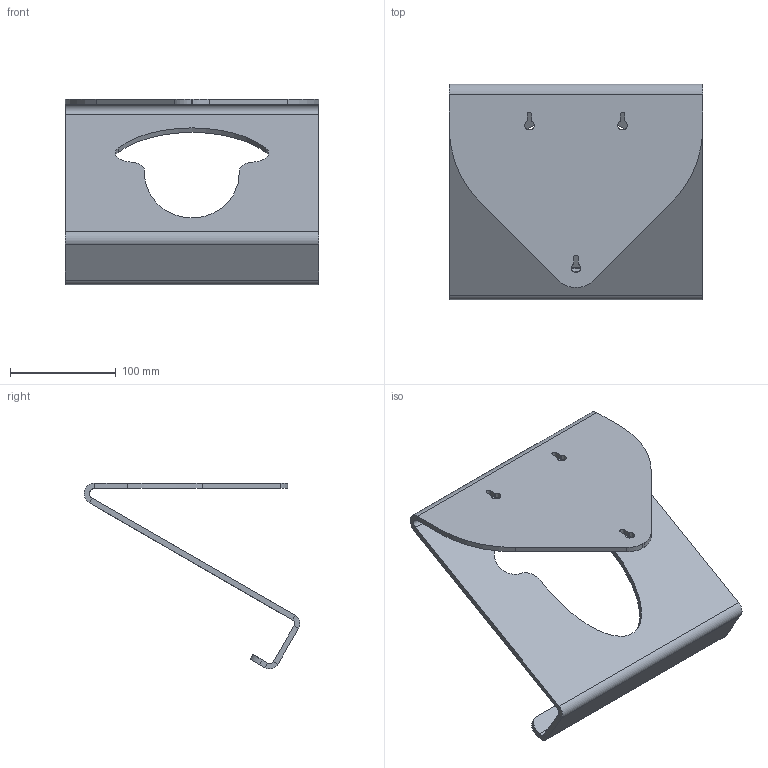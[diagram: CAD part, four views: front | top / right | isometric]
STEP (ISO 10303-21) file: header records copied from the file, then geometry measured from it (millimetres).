
FILE_DESCRIPTION (( 'STEP AP214' ), '1' );
FILE_NAME ('Halterung_HorstPanel.STEP', '2020-09-17T09:55:19', ( '' ), ( '' ), 'SwSTEP 2.0', 'SolidWorks 2017', '' );
FILE_SCHEMA (( 'AUTOMOTIVE_DESIGN' ));
Length unit declared in the file: millimetre
Products named in the file (2): Halterung_HorstPanel
Bounding box: 240 x 203.98 x 175.74 mm (x, y, z)
Volume: 457572.9 mm3; surface area: 192843.6 mm2
Topology: 1 solids, 1 shells, 62 faces, 156 edges, 96 vertices
Faces by surface type: plane 32, cylinder 29, bspline 1
Entity records: 1926 total; most frequent: CARTESIAN_POINT 341, DIRECTION 338, ORIENTED_EDGE 312, EDGE_CURVE 156, AXIS2_PLACEMENT_3D 121, VERTEX_POINT 96, LINE 96, VECTOR 96
